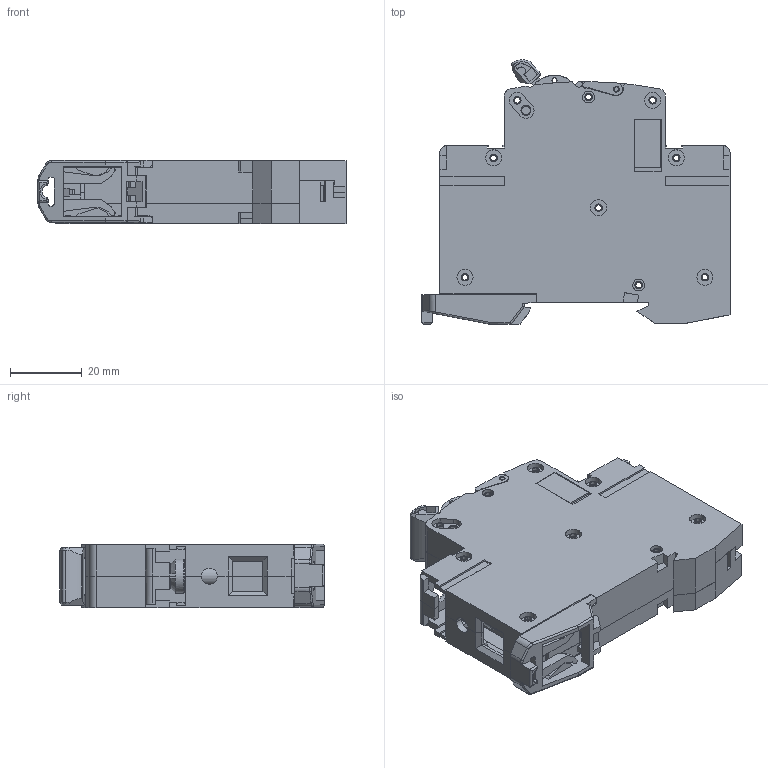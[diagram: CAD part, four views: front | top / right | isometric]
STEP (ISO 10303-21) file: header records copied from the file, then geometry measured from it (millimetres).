
FILE_DESCRIPTION (( 'STEP AP203' ), '1' );
FILE_NAME ('BKN-b 三维外形.STEP', '2016-03-17T08:07:39', ( 'User' ), ( 'Company' ), 'SwSTEP 2.0', 'SolidWorks 2013', '' );
FILE_SCHEMA (( 'CONFIG_CONTROL_DESIGN' ));
Length unit declared in the file: millimetre
Products named in the file (15): 8YJ.148.4300; 8YJ.321.4300; 8JV.233.31600; 8JV.024.31600; 8YJ.941.4300; 8JV.315.31600; 8YJ.288.4300(菴媼妗瞰); 8JV.253.31600; 8YJ.967.4300(默认); 8YJ.900.4300; hexagon socket set screws with cup point gb(GB_SOCKET_SET_TYPE4 M2.5X8-C); 8YJ.550.4301; 8YJ.322.4300; 8YJ.315.4301; BKN-b 三维外形
Assembly tree (24 placements, depth 2):
  BKN-b 三维外形
    8JV.024.31600
    8JV.315.31600
    8JV.253.31600
    8YJ.900.4300  x2
    8YJ.550.4301
    8YJ.315.4301
    8YJ.148.4300
    8YJ.321.4300
    8JV.233.31600
    8YJ.941.4300
    8YJ.288.4300(菴媼妗瞰)
    8YJ.967.4300(默认)  x9
    hexagon socket set screws with cup point gb(GB_SOCKET_SET_TYPE4 M2.5X8-C)
    8YJ.322.4300  x2
Bounding box: 86 x 73.82 x 17.65 mm (x, y, z)
Volume: 29612.6 mm3; surface area: 46257.1 mm2
Topology: 33 solids, 33 shells, 2840 faces, 7595 edges, 4930 vertices
Faces by surface type: plane 2018, cylinder 490, bspline 179, cone 104, torus 47, sphere 2
Entity records: 101475 total; most frequent: CARTESIAN_POINT 33003, ORIENTED_EDGE 14380, DIRECTION 12872, EDGE_CURVE 7190, VECTOR 5706, LINE 5706, VERTEX_POINT 4693, AXIS2_PLACEMENT_3D 3583
